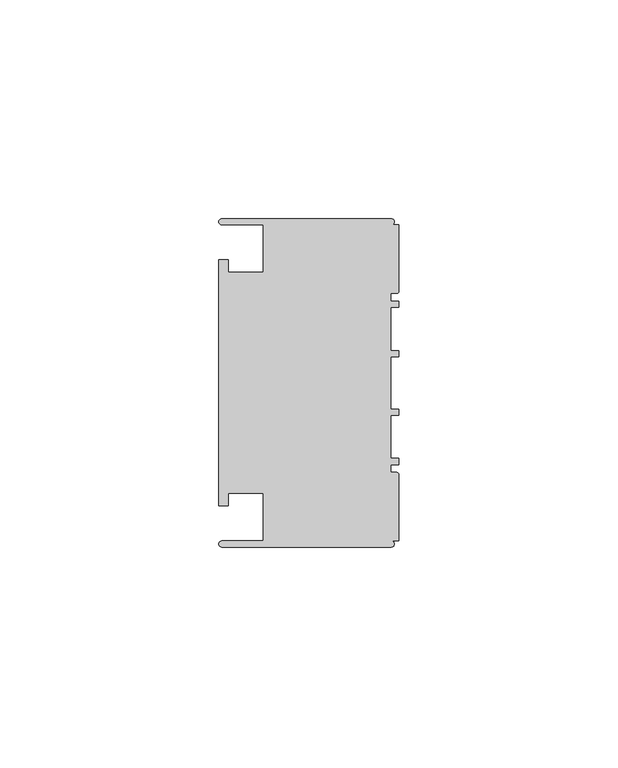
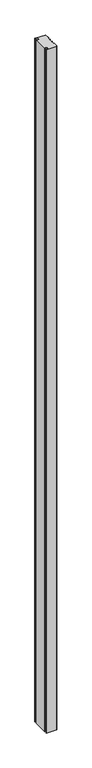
"""IFC4 building model written with IfcOpenShell, lengths in millimetres: member geometry, Прямоугольный импост : 3-AMG-2-Профиль 40Х75 Верх П."""

from ifc_helpers import new_model, si_unit, point, frame, frame_2d, origin, place, context, project, spatial, polyline, circle_curve, trimmed, segment, composite_curve, outline, extrude, source, transform, mapped, element, save


def member_062cc966(model_context):
    return source(origin(), model_context, "Body", "SweptSolid", [
        extrude(outline(composite_curve([segment(polyline([(-1.7, -37.5), (-40.4, -37.5)]), True, "CONTINUOUS"), segment(trimmed(circle_curve(frame_2d((-40.4, -36.8)), 0.7), [point((-40.4, -37.5))], [point((-40.4, -36.1))], False, "CARTESIAN"), True, "CONTINUOUS"), segment(polyline([(-40.4, -36.1), (-31.0, -36.1), (-31.0, -25.25), (-39.0, -25.25), (-39.0, -28.1), (-41.1, -28.1), (-41.1, 28.1), (-39.0, 28.1), (-39.0, 25.25), (-31.0, 25.25), (-31.0, 36.1), (-40.4, 36.1)]), True, "CONTINUOUS"), segment(trimmed(circle_curve(frame_2d((-40.4, 36.8)), 0.7), [point((-40.4, 36.1))], [point((-40.4, 37.5))], False, "CARTESIAN"), True, "CONTINUOUS"), segment(polyline([(-40.4, 37.5), (-1.7, 37.5)]), True, "CONTINUOUS"), segment(trimmed(circle_curve(frame_2d((-1.7, 36.8)), 0.7), [point((-1.7, 37.5))], [point((-1.7, 36.1))], False, "CARTESIAN"), True, "CONTINUOUS"), segment(polyline([(-1.7, 36.1), (0.0, 36.1), (0.0, 20.95)]), True, "CONTINUOUS"), segment(trimmed(circle_curve(frame_2d((-0.5, 20.95)), 0.5), [point((0.0, 20.95))], [point((-0.5, 20.45))], False, "CARTESIAN"), True, "CONTINUOUS"), segment(polyline([(-0.5, 20.45), (-1.8, 20.45), (-1.8, 18.65), (0.0, 18.65), (0.0, 17.25), (-1.8, 17.25), (-1.8, 7.4), (0.0, 7.4), (0.0, 6.0), (-1.8, 6.0), (-1.8, -6.0), (0.0, -6.0), (0.0, -7.4), (-1.8, -7.4), (-1.8, -17.25), (0.0, -17.25), (0.0, -18.65), (-1.8, -18.65), (-1.8, -20.45), (-0.5, -20.45)]), True, "CONTINUOUS"), segment(trimmed(circle_curve(frame_2d((-0.5, -20.95)), 0.5), [point((-0.5, -20.45))], [point((0.0, -20.95))], False, "CARTESIAN"), True, "CONTINUOUS"), segment(polyline([(0.0, -20.95), (0.0, -36.1), (-1.7, -36.1)]), True, "CONTINUOUS"), segment(trimmed(circle_curve(frame_2d((-1.7, -36.8)), 0.7), [point((-1.7, -36.1))], [point((-1.7, -37.5))], False, "CARTESIAN"), True, "CONTINUOUS")], self_intersect=False)), frame((0.0, 0.0, -2758.9), z_axis=(0.0, 0.0, 1.0), x_axis=(1.0, 0.0, 0.0)), (0.0, 0.0, 1.0), 2758.9),
    ])


if __name__ == "__main__":
    model = new_model("IFC4")
    model_context = context("Model", 3, world=origin())
    ifc_project = project(units=[si_unit("LENGTHUNIT", "METRE", prefix="MILLI")], contexts=[model_context])
    site = spatial("IfcSite", under=ifc_project)
    building = spatial("IfcBuilding", under=site)
    placement = place(None, origin())
    member_shape = member_062cc966(model_context)
    element("IfcMember", 1, ObjectType="Прямоугольный импост : 3-AMG-2-Профиль 40Х75 Верх П", at=placement, inside=building, context=model_context, shape_type="MappedRepresentation", body=[
        mapped(member_shape, transform((0.0, 0.0, 0.0), x_axis=(1.0, 0.0, 0.0), y_axis=(0.0, 1.0, 0.0), z_axis=(0.0, 0.0, 1.0))),
    ])
    save(model, "model.ifc")
